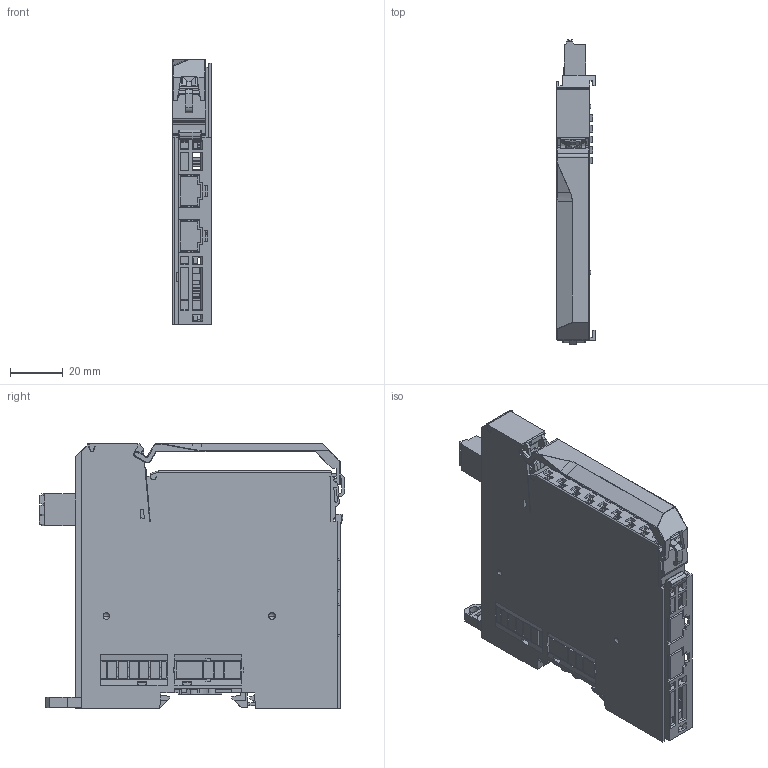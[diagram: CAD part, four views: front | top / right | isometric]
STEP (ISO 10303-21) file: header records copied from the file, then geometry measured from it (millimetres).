
FILE_DESCRIPTION((''),'2;1');
FILE_NAME('000-Q1-MAIN_ASM_57_AS_SW0001','2019-09-26T',('Administrator'),(''),'PRO/ENGINEER BY PARAMETRIC TECHNOLOGY CORPORATION, 2010280','PRO/ENGINEER BY PARAMETRIC TECHNOLOGY CORPORATION, 2010280','');
FILE_SCHEMA(('AUTOMOTIVE_DESIGN_CC2 { 1 2 10303 214 -1 1 5 2 }'));
Products named in the file (1): 000-Q1-MAIN_ASM_57_AS_SW0001
Bounding box: 14.7 x 115.5 x 100 mm (x, y, z)
Volume: 48702.4 mm3; surface area: 74084.5 mm2
Topology: 1 solids, 1 shells, 6487 faces, 19404 edges, 12652 vertices
Faces by surface type: plane 5441, cylinder 593, extrusion 203, cone 140, bspline 76, sphere 17, torus 17
Entity records: 255582 total; most frequent: CARTESIAN_POINT 47247, ORIENTED_EDGE 38742, DIRECTION 32881, EDGE_CURVE 19371, VECTOR 17131, LINE 16928, VERTEX_POINT 12652, AXIS2_PLACEMENT_3D 7875
